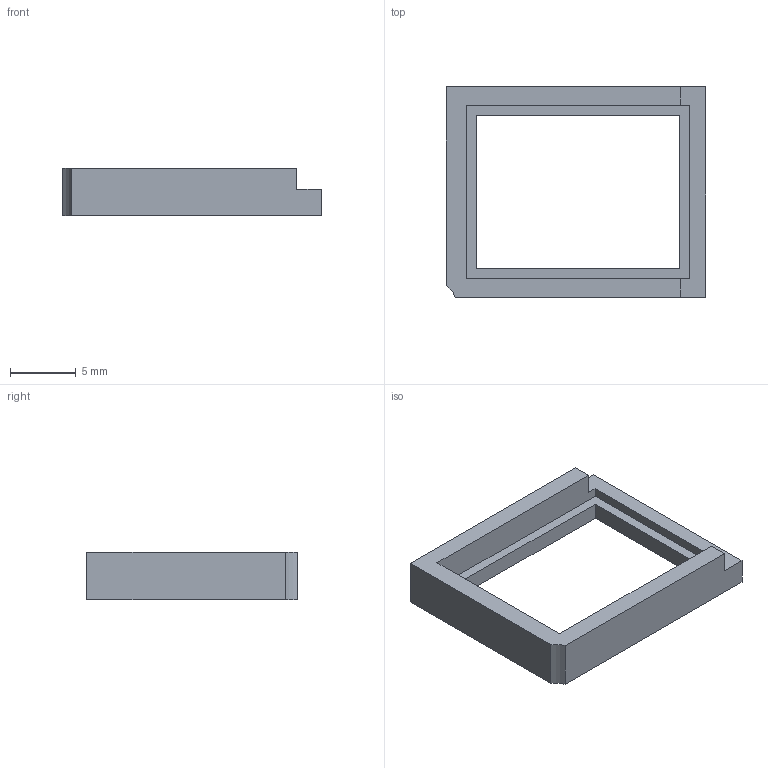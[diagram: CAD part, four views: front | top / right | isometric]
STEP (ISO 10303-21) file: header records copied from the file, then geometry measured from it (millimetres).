
FILE_DESCRIPTION(('Open CASCADE Model'),'2;1');
FILE_NAME('Open CASCADE Shape Model','2026-09-06T11:21:49',('Author'),( 'Open CASCADE'),'Open CASCADE STEP processor 7.7','Open CASCADE 7.7' ,'Unknown');
FILE_SCHEMA(('AUTOMOTIVE_DESIGN { 1 0 10303 214 1 1 1 1 }'));
Length unit declared in the file: millimetre
Products named in the file (1): Open CASCADE STEP translator 7.7 13
Bounding box: 19.7 x 16 x 3.6 mm (x, y, z)
Volume: 347.7 mm3; surface area: 681.6 mm2
Topology: 1 solids, 1 shells, 19 faces, 51 edges, 34 vertices
Faces by surface type: plane 18, cylinder 1
Entity records: 1265 total; most frequent: CARTESIAN_POINT 215, DIRECTION 192, LINE 147, VECTOR 147, ORIENTED_EDGE 102, PCURVE 102, DEFINITIONAL_REPRESENTATION 102, EDGE_CURVE 51
